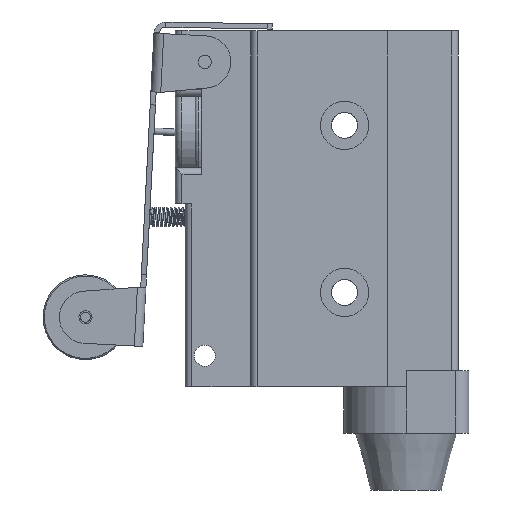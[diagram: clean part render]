
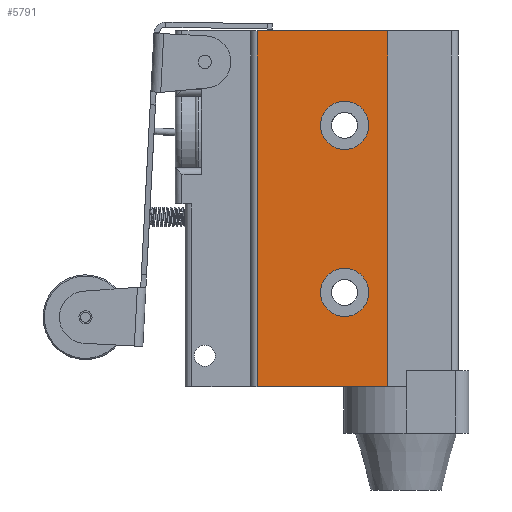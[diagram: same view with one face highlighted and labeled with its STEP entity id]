
A CAD part, left-side view. The second image highlights one B-rep face of the part: STEP entity #5791.
In plain terms, the highlighted planar face has unit normal (-1, 0, 0).
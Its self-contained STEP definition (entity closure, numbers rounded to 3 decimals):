
#1543 = EDGE_LOOP ( 'NONE', ( #15042, #20230, #17316, #21274 ) ) ;
#1876 = CARTESIAN_POINT ( 'NONE',  ( -2.9, 30.8, -54.5 ) ) ;
#2478 = VERTEX_POINT ( 'NONE', #15432 ) ;
#3208 = EDGE_CURVE ( 'NONE', #5458, #6106, #16919, .T. ) ;
#3893 = CARTESIAN_POINT ( 'NONE',  ( -2.9, 30.8, 0. ) ) ;
#4344 = EDGE_LOOP ( 'NONE', ( #19904 ) ) ;
#4421 = EDGE_LOOP ( 'NONE', ( #14634 ) ) ;
#4778 = AXIS2_PLACEMENT_3D ( 'NONE', #15680, #13824, #13998 ) ;
#4827 = PLANE ( 'NONE',  #8605 ) ;
#5102 = CARTESIAN_POINT ( 'NONE',  ( -2.9, 10.8, -54.5 ) ) ;
#5228 = DIRECTION ( 'NONE',  ( 0., -1., 0. ) ) ;
#5458 = VERTEX_POINT ( 'NONE', #7569 ) ;
#5673 = VECTOR ( 'NONE', #10208, 1000. ) ;
#5791 = ADVANCED_FACE ( 'NONE', ( #18958, #17070, #5827 ), #4827, .T. ) ;
#5827 = FACE_OUTER_BOUND ( 'NONE', #1543, .T. ) ;
#5876 = DIRECTION ( 'NONE',  ( 0., 0., 1. ) ) ;
#5935 = DIRECTION ( 'NONE',  ( 0., -1., 0. ) ) ;
#6106 = VERTEX_POINT ( 'NONE', #16275 ) ;
#7569 = CARTESIAN_POINT ( 'NONE',  ( -2.9, 30.8, -54.5 ) ) ;
#7844 = CARTESIAN_POINT ( 'NONE',  ( -2.9, 10.8, 0. ) ) ;
#8382 = VERTEX_POINT ( 'NONE', #21351 ) ;
#8605 = AXIS2_PLACEMENT_3D ( 'NONE', #5102, #11074, #13059 ) ;
#9839 = EDGE_CURVE ( 'NONE', #8382, #8382, #11463, .T. ) ;
#10046 = VECTOR ( 'NONE', #5876, 1000. ) ;
#10208 = DIRECTION ( 'NONE',  ( 0., 0., 1. ) ) ;
#11074 = DIRECTION ( 'NONE',  ( -1., 0., 0. ) ) ;
#11463 = CIRCLE ( 'NONE', #4778, 3.7 ) ;
#11776 = DIRECTION ( 'NONE',  ( 0., 0., 1. ) ) ;
#12101 = CARTESIAN_POINT ( 'NONE',  ( -2.9, 10.8, -54.5 ) ) ;
#12130 = EDGE_CURVE ( 'NONE', #2478, #2478, #17975, .T. ) ;
#13059 = DIRECTION ( 'NONE',  ( 0., 0., 1. ) ) ;
#13824 = DIRECTION ( 'NONE',  ( -1., 0., 0. ) ) ;
#13998 = DIRECTION ( 'NONE',  ( 0., 0., 1. ) ) ;
#14634 = ORIENTED_EDGE ( 'NONE', *, *, #9839, .F. ) ;
#15042 = ORIENTED_EDGE ( 'NONE', *, *, #23452, .F. ) ;
#15432 = CARTESIAN_POINT ( 'NONE',  ( -2.9, 17.4, -36.35 ) ) ;
#15680 = CARTESIAN_POINT ( 'NONE',  ( -2.9, 17.4, -14.45 ) ) ;
#16275 = CARTESIAN_POINT ( 'NONE',  ( -2.9, 10.8, -54.5 ) ) ;
#16315 = EDGE_CURVE ( 'NONE', #6106, #16616, #17776, .T. ) ;
#16616 = VERTEX_POINT ( 'NONE', #23088 ) ;
#16919 = LINE ( 'NONE', #19070, #20938 ) ;
#17070 = FACE_BOUND ( 'NONE', #4421, .T. ) ;
#17316 = ORIENTED_EDGE ( 'NONE', *, *, #3208, .T. ) ;
#17776 = LINE ( 'NONE', #12101, #5673 ) ;
#17975 = CIRCLE ( 'NONE', #23640, 3.7 ) ;
#18958 = FACE_BOUND ( 'NONE', #4344, .T. ) ;
#19070 = CARTESIAN_POINT ( 'NONE',  ( -2.9, 10.8, -54.5 ) ) ;
#19258 = LINE ( 'NONE', #7844, #22361 ) ;
#19904 = ORIENTED_EDGE ( 'NONE', *, *, #12130, .F. ) ;
#20230 = ORIENTED_EDGE ( 'NONE', *, *, #24222, .F. ) ;
#20938 = VECTOR ( 'NONE', #5228, 1000. ) ;
#21274 = ORIENTED_EDGE ( 'NONE', *, *, #16315, .T. ) ;
#21351 = CARTESIAN_POINT ( 'NONE',  ( -2.9, 17.4, -10.75 ) ) ;
#21540 = CARTESIAN_POINT ( 'NONE',  ( -2.9, 17.4, -40.05 ) ) ;
#21701 = DIRECTION ( 'NONE',  ( -1., 0., 0. ) ) ;
#22361 = VECTOR ( 'NONE', #5935, 1000. ) ;
#23088 = CARTESIAN_POINT ( 'NONE',  ( -2.9, 10.8, 0. ) ) ;
#23132 = LINE ( 'NONE', #1876, #10046 ) ;
#23452 = EDGE_CURVE ( 'NONE', #23922, #16616, #19258, .T. ) ;
#23640 = AXIS2_PLACEMENT_3D ( 'NONE', #21540, #21701, #11776 ) ;
#23922 = VERTEX_POINT ( 'NONE', #3893 ) ;
#24222 = EDGE_CURVE ( 'NONE', #5458, #23922, #23132, .T. ) ;
